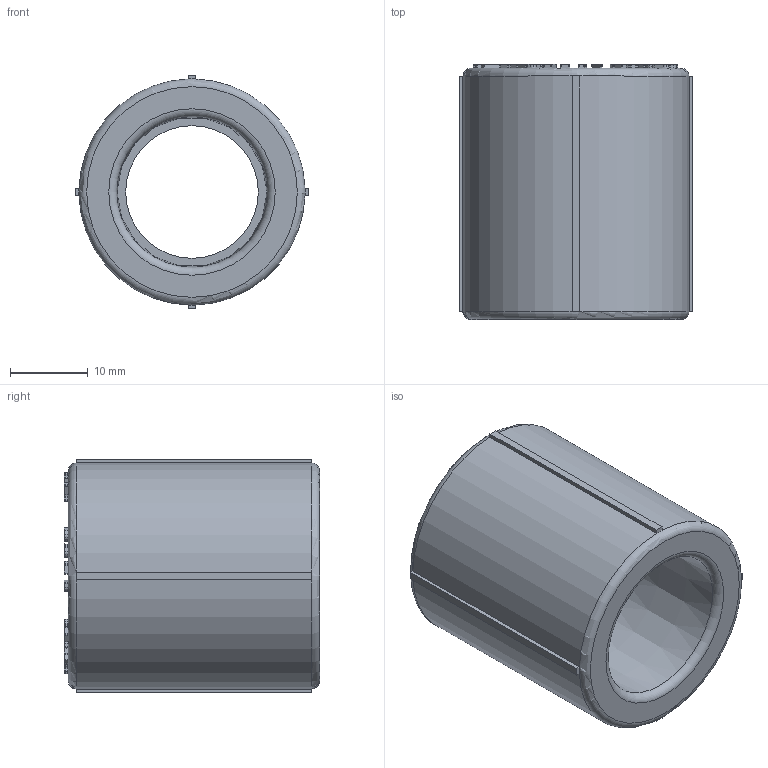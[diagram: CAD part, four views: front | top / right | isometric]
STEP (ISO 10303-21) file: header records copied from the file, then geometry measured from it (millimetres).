
FILE_DESCRIPTION(('STEP AP203'), '1');
FILE_NAME('ÂÐ.713151.001 - VTp.703.0.020', '', ('UNSPECIFIED'), ('UNSPECIFIED'), 'C3D Converter', 'C3D Toolkit', '');
FILE_SCHEMA(('CONFIG_CONTROL_DESIGN'));
Length unit declared in the file: millimetre
Products named in the file (1): ВР.713151.001
Bounding box: 30 x 32.7 x 30 mm (x, y, z)
Volume: 12044.6 mm3; surface area: 5811.1 mm2
Topology: 1 solids, 1 shells, 559 faces, 1556 edges, 1031 vertices
Faces by surface type: extrusion 318, plane 230, cylinder 5, torus 4, cone 2
Full cylindrical faces by diameter (mm): 17 x1
Entity records: 18171 total; most frequent: CARTESIAN_POINT 5048, ORIENTED_EDGE 3098, DIRECTION 1743, EDGE_CURVE 1549, VECTOR 1203, VERTEX_POINT 1031, B_SPLINE_CURVE_WITH_KNOTS 954, LINE 885
